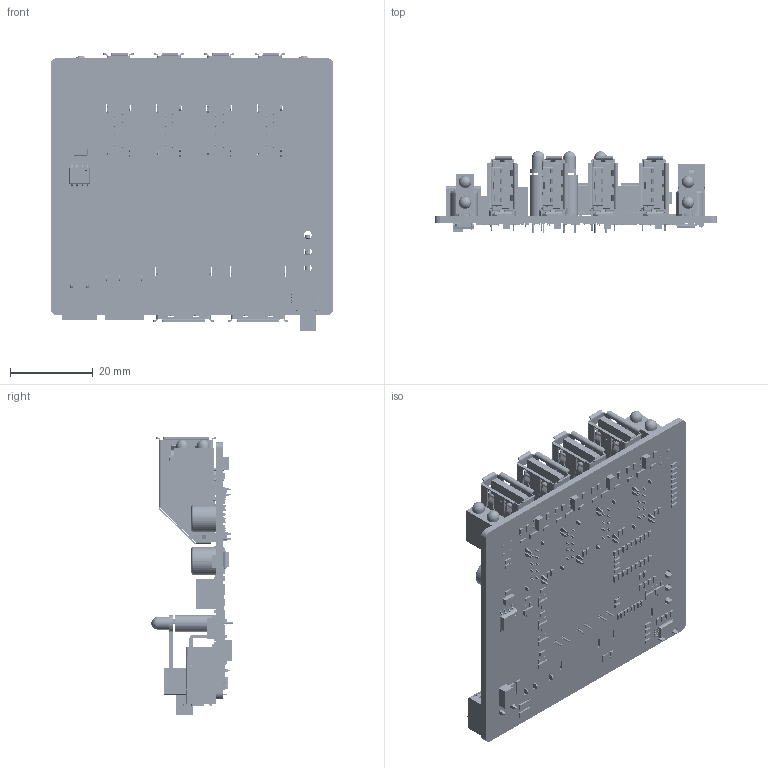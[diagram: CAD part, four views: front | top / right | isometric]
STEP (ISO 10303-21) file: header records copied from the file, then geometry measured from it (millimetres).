
FILE_DESCRIPTION((''),'2;1');
FILE_NAME('USB3_2-GEN1-HUB-2IN-4OUT-PCBA_ASM','2023-06-09T11:28:08',('xiaojisheng'),(''),'CREO PARAMETRIC BY PTC INC, 2021063','CREO PARAMETRIC BY PTC INC, 2021063','');
FILE_SCHEMA(('CONFIG_CONTROL_DESIGN','SHAPE_APPEARANCE_LAYERS_GROUPS'));
Products named in the file (11): USB3_2-GEN1-HUB-2IN-4OUT-PCBA; SS-12D61; USB3_0-AF0001; KEFA_3_81MM_2PIN_MALE_RA; DC-044; USB3_0-AF-90D-SIDE; LED_DOUBLE; 3MM-LED_GREEN; 3MM-LED_RED; 3MMLED-COLUMN-H10; USB3_2-GEN1-HUB-2IN-4OUT-PCBA_ASM
Assembly tree (18 placements, depth 2):
  USB3_2-GEN1-HUB-2IN-4OUT-PCBA_ASM
    USB3_2-GEN1-HUB-2IN-4OUT-PCBA
    SS-12D61
    USB3_0-AF0001  x2
    KEFA_3_81MM_2PIN_MALE_RA
    DC-044
    USB3_0-AF-90D-SIDE  x4
    LED_DOUBLE  x2
    3MM-LED_GREEN  x2
    3MM-LED_RED
    3MMLED-COLUMN-H10  x3
Bounding box: 68.3 x 19.7 x 66.92 mm (x, y, z)
Volume: 16515.9 mm3; surface area: 29178.7 mm2
Topology: 158 solids, 167 shells, 12122 faces, 33663 edges, 22268 vertices
Faces by surface type: plane 10060, cylinder 1926, sphere 58, bspline 48, extrusion 16, torus 8, cone 6
Entity records: 251133 total; most frequent: CARTESIAN_POINT 33532, ORIENTED_EDGE 31184, DIRECTION 28973, PRESENTATION_STYLE_ASSIGNMENT 18678, STYLED_ITEM 15736, EDGE_CURVE 15596, CURVE_STYLE 15560, VECTOR 13727
